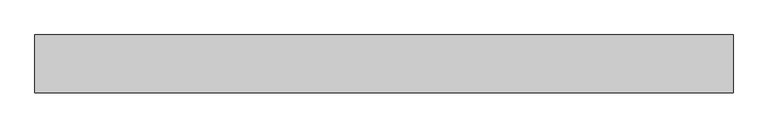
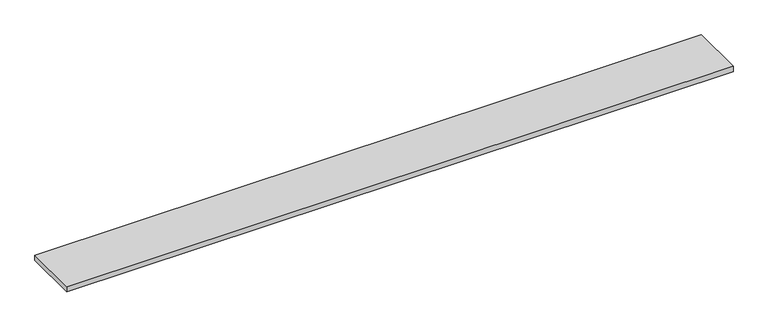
"""IFC4 building model written with IfcOpenShell, lengths in millimetres: furniture geometry, Fechamento Superior do Painel de TV : Fechamento Superior do Painel de TV."""

from ifc_helpers import new_model, si_unit, frame, origin, place, context, project, spatial, polyline, outline, extrude, source, transform, mapped, element, save


def furniture_03cabe77(model_context):
    return source(origin(), model_context, "Body", "SweptSolid", [
        extrude(outline(polyline([(1210.0, 0.0), (0.0, 0.0), (0.0, 100.0), (1210.0, 100.0), (1210.0, 0.0)])), frame((0.0, 0.0, -10.0), z_axis=(0.0, 0.0, 1.0), x_axis=(1.0, 0.0, 0.0)), (0.0, 0.0, 1.0), 10.0),
    ])


if __name__ == "__main__":
    model = new_model("IFC4")
    model_context = context("Model", 3, world=origin())
    ifc_project = project(units=[si_unit("LENGTHUNIT", "METRE", prefix="MILLI")], contexts=[model_context])
    site = spatial("IfcSite", under=ifc_project)
    building = spatial("IfcBuilding", under=site)
    placement = place(None, origin())
    furniture_shape = furniture_03cabe77(model_context)
    element("IfcFurniture", 1, ObjectType="Fechamento Superior do Painel de TV : Fechamento Superior do Painel de TV", at=placement, inside=building, context=model_context, shape_type="MappedRepresentation", body=[
        mapped(furniture_shape, transform((0.0, 0.0, 0.0), x_axis=(1.0, 0.0, 0.0), y_axis=(0.0, 1.0, 0.0), z_axis=(0.0, 0.0, 1.0))),
    ])
    save(model, "model.ifc")
